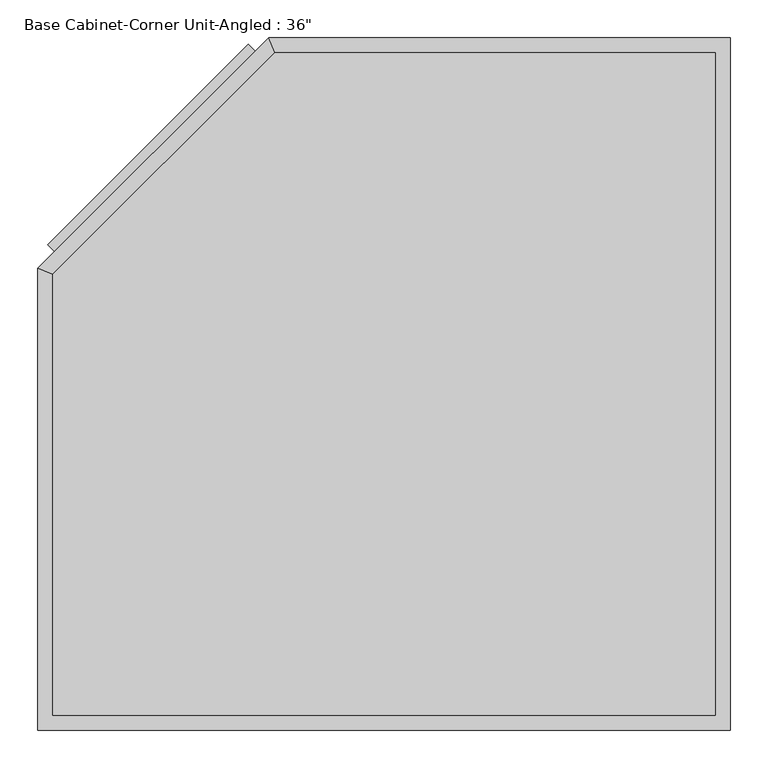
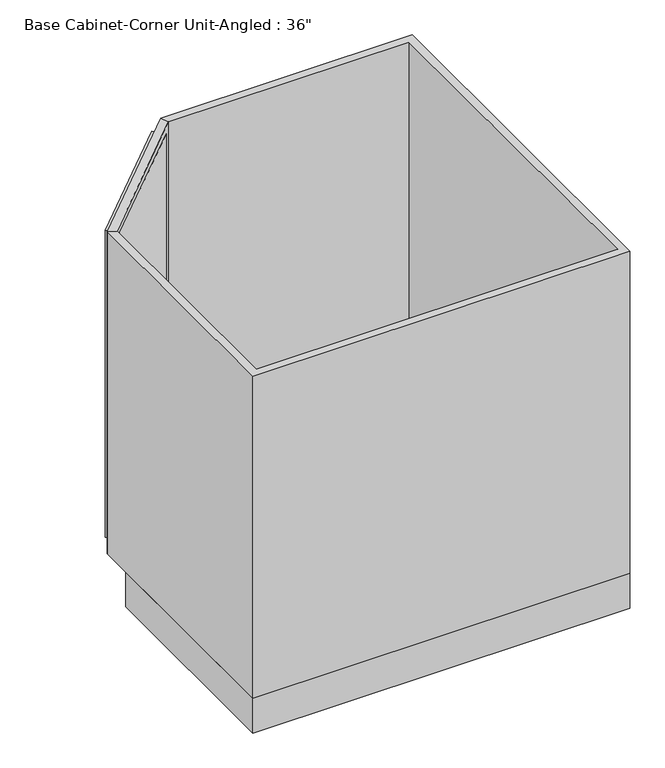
"""IFC4 building model written with IfcOpenShell, lengths in millimetres: furniture geometry."""

from ifc_helpers import new_model, si_unit, frame, origin, origin_with_axes, place, context, project, spatial, polyline, outline, extrude, faceted_brep, source, transform, mapped, element, save


def furniture_61266c35(model_context):
    return source(origin(), model_context, "Body", "SolidModel", [
        extrude(outline(polyline([(-109.5319116, 905.7284105), (-87.105109, 883.2539578), (-352.3035566, 618.6177794), (-374.7303593, 641.0922321), (-109.5319116, 905.7284105)])), frame((0.0, 0.0, 107.95), z_axis=(0.0, 0.0, 1.0), x_axis=(1.0, 0.0, 0.0)), (0.0, 0.0, 1.0), 787.4),
        extrude(outline(polyline([(526.7377049, 0.0), (-387.6622951, 0.0), (-387.6622951, 610.2462317), (-368.6122951, 602.3436184), (-368.6122951, 19.05), (507.6877049, 19.05), (507.6877049, 895.35), (-74.9833665, 895.35), (-82.8622951, 914.4), (526.7377049, 914.4), (526.7377049, 0.0)])), frame((0.0, 0.0, 88.9), z_axis=(0.0, 0.0, 1.0), x_axis=(1.0, 0.0, 0.0)), (0.0, 0.0, 1.0), 825.5),
        extrude(outline(polyline([(507.6877049, 19.05), (-368.6122951, 19.05), (-368.6122951, 602.3436184), (-74.9833665, 895.35), (507.6877049, 895.35), (507.6877049, 19.05)])), frame((0.0, 0.0, 88.9), z_axis=(0.0, 0.0, 1.0), x_axis=(1.0, 0.0, 0.0)), (0.0, 0.0, 1.0), 19.05),
        extrude(outline(polyline([(526.7377049, 0.0), (-387.6622951, 0.0), (-387.6622951, 534.0223805), (-6.6622951, 914.4), (526.7377049, 914.4), (526.7377049, 0.0)])), origin_with_axes(), (0.0, 0.0, 1.0), 88.9),
        faceted_brep([(-368.6122951, 602.3436184, 914.4), (-74.9833665, 895.35, 914.4), (-82.8622951, 914.4, 914.4), (-387.6622951, 610.2462317, 914.4), (-368.6122951, 602.3436184, 88.9), (-387.6622951, 610.2462317, 88.9), (-82.8622951, 914.4, 88.9), (-74.9833665, 895.35, 88.9), (-100.5611906, 896.7386294, 895.35), (-365.7596382, 632.102451, 895.35), (-365.7596382, 632.102451, 107.95), (-100.5611906, 896.7386294, 107.95), (-87.105109, 883.2539578, 107.95), (-352.3035566, 618.6177794, 107.95), (-352.3035566, 618.6177794, 895.35), (-87.105109, 883.2539578, 895.35)], [[[0, 1, 2, 3]], [[4, 5, 6, 7]], [[3, 5, 4, 0]], [[2, 6, 5, 3], [8, 9, 10, 11]], [[1, 7, 6, 2]], [[0, 4, 7, 1], [12, 13, 14, 15]], [[12, 15, 8, 11]], [[11, 10, 13, 12]], [[10, 9, 14, 13]], [[15, 14, 9, 8]]]),
    ])


if __name__ == "__main__":
    model = new_model("IFC4")
    model_context = context("Model", 3, world=origin())
    ifc_project = project(units=[si_unit("LENGTHUNIT", "METRE", prefix="MILLI")], contexts=[model_context])
    site = spatial("IfcSite", under=ifc_project)
    building = spatial("IfcBuilding", under=site)
    placement = place(None, origin())
    furniture_shape = furniture_61266c35(model_context)
    element("IfcFurniture", 1, ObjectType="Base Cabinet-Corner Unit-Angled : 36\"", at=placement, inside=building, context=model_context, shape_type="MappedRepresentation", body=[
        mapped(furniture_shape, transform((0.0, 0.0, 0.0), x_axis=(1.0, 0.0, 0.0), y_axis=(0.0, 1.0, 0.0), z_axis=(0.0, 0.0, 1.0))),
    ])
    save(model, "model.ifc")
